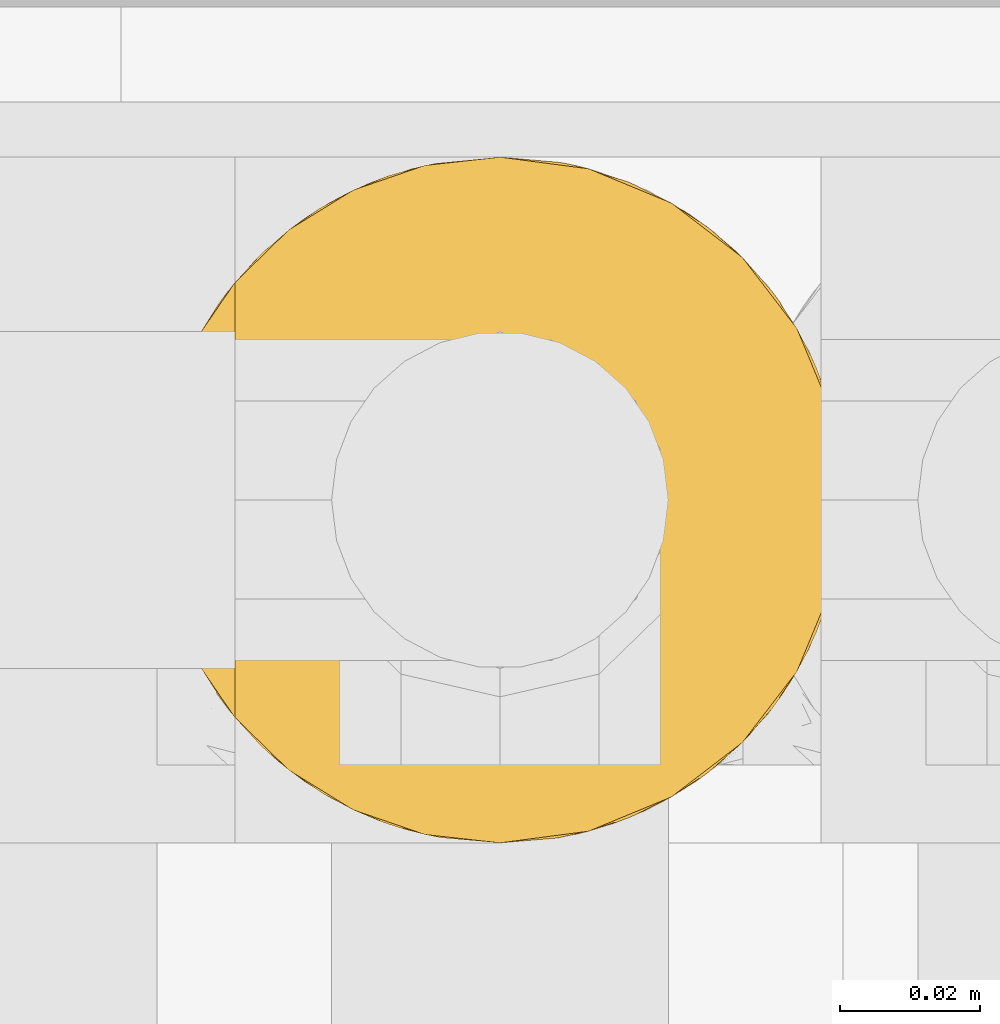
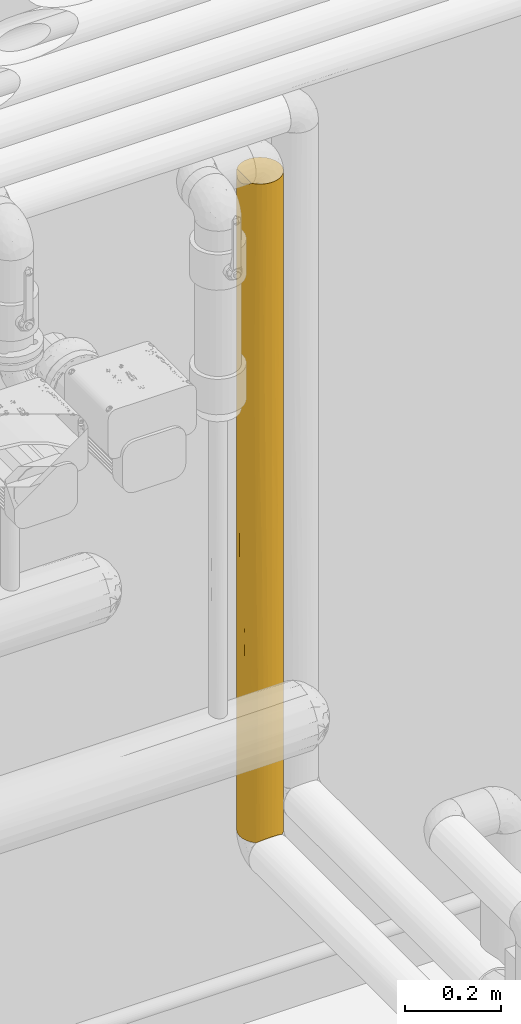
# One storey, part 10 of 94: 1 covering.
"""IFC2X3 building model written with IfcOpenShell, lengths in millimetres."""

from ifc_helpers import new_model, entity, si_unit, converted_unit, derived_unit, direction, frame, origin, place, context, subcontext, project, spatial, faceted_brep, material, element, save


model = new_model("IFC2X3")

# Units and contexts
model_context = context("Model", 3, precision=0.01, world=origin(), true_north=direction((6.123031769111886e-17, 1.0)))
body_context = subcontext(model_context, "Body", "Model", "MODEL_VIEW")
ifc_project = project(units=[si_unit("LENGTHUNIT", "METRE", prefix="MILLI"), si_unit("AREAUNIT", "SQUARE_METRE"), si_unit("VOLUMEUNIT", "CUBIC_METRE"), converted_unit("PLANEANGLEUNIT", "DEGREE", entity("IfcRatioMeasure", 0.017453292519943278), si_unit("PLANEANGLEUNIT", "RADIAN"), dimensions=[0, 0, 0, 0, 0, 0, 0]), si_unit("MASSUNIT", "GRAM", prefix="KILO"), derived_unit("MASSDENSITYUNIT", [(si_unit("MASSUNIT", "GRAM", prefix="KILO"), 1), (si_unit("LENGTHUNIT", "METRE"), -3)]), derived_unit("IONCONCENTRATIONUNIT", [(si_unit("MASSUNIT", "GRAM", prefix="KILO"), 1), (si_unit("LENGTHUNIT", "METRE"), -3)]), derived_unit("MOMENTOFINERTIAUNIT", [(si_unit("LENGTHUNIT", "METRE"), 4)]), si_unit("TIMEUNIT", "SECOND"), si_unit("FREQUENCYUNIT", "HERTZ"), si_unit("THERMODYNAMICTEMPERATUREUNIT", "DEGREE_CELSIUS"), derived_unit("THERMALTRANSMITTANCEUNIT", [(si_unit("MASSUNIT", "GRAM", prefix="KILO"), 1), (si_unit("THERMODYNAMICTEMPERATUREUNIT", "KELVIN"), -1), (si_unit("TIMEUNIT", "SECOND"), -3)]), derived_unit("THERMALCONDUCTANCEUNIT", [(si_unit("MASSUNIT", "GRAM", prefix="KILO"), 1), (si_unit("THERMODYNAMICTEMPERATUREUNIT", "KELVIN"), -1), (si_unit("TIMEUNIT", "SECOND"), -3), (si_unit("LENGTHUNIT", "METRE"), 1)]), derived_unit("VOLUMETRICFLOWRATEUNIT", [(si_unit("LENGTHUNIT", "METRE"), 3), (si_unit("TIMEUNIT", "SECOND"), -1)]), derived_unit("MASSFLOWRATEUNIT", [(si_unit("MASSUNIT", "GRAM", prefix="KILO"), 1), (si_unit("TIMEUNIT", "SECOND"), -1)]), derived_unit("ROTATIONALFREQUENCYUNIT", [(si_unit("TIMEUNIT", "SECOND"), -1)]), si_unit("ELECTRICCURRENTUNIT", "AMPERE"), si_unit("ELECTRICVOLTAGEUNIT", "VOLT"), si_unit("POWERUNIT", "WATT"), si_unit("FORCEUNIT", "NEWTON", prefix="KILO"), si_unit("ILLUMINANCEUNIT", "LUX"), si_unit("LUMINOUSFLUXUNIT", "LUMEN"), si_unit("LUMINOUSINTENSITYUNIT", "CANDELA"), derived_unit("USERDEFINED", [(si_unit("MASSUNIT", "GRAM", prefix="KILO"), -1), (si_unit("LENGTHUNIT", "METRE"), -2), (si_unit("TIMEUNIT", "SECOND"), 3), (si_unit("LUMINOUSFLUXUNIT", "LUMEN"), 1)]), derived_unit("USERDEFINED", [(si_unit("MASSUNIT", "GRAM", prefix="KILO"), 1), (si_unit("TIMEUNIT", "SECOND"), -3), (si_unit("LENGTHUNIT", "METRE"), 3), (si_unit("ELECTRICCURRENTUNIT", "AMPERE"), -2)]), derived_unit("SOUNDPOWERUNIT", [(si_unit("MASSUNIT", "GRAM", prefix="KILO"), 1), (si_unit("TIMEUNIT", "SECOND"), -3), (si_unit("LENGTHUNIT", "METRE"), 2)]), derived_unit("SOUNDPRESSUREUNIT", [(si_unit("MASSUNIT", "GRAM", prefix="KILO"), 1), (si_unit("LENGTHUNIT", "METRE"), -1), (si_unit("TIMEUNIT", "SECOND"), -2)]), derived_unit("LINEARVELOCITYUNIT", [(si_unit("LENGTHUNIT", "METRE"), 1), (si_unit("TIMEUNIT", "SECOND"), -1)]), si_unit("PRESSUREUNIT", "PASCAL"), derived_unit("USERDEFINED", [(si_unit("MASSUNIT", "GRAM", prefix="KILO"), 1), (si_unit("LENGTHUNIT", "METRE"), -2), (si_unit("TIMEUNIT", "SECOND"), -2)]), derived_unit("LINEARFORCEUNIT", [(si_unit("MASSUNIT", "GRAM", prefix="KILO"), 1), (si_unit("TIMEUNIT", "SECOND"), -2)]), derived_unit("PLANARFORCEUNIT", [(si_unit("MASSUNIT", "GRAM", prefix="KILO"), 1), (si_unit("LENGTHUNIT", "METRE"), -1), (si_unit("TIMEUNIT", "SECOND"), -2)]), derived_unit("SPECIFICHEATCAPACITYUNIT", [(si_unit("THERMODYNAMICTEMPERATUREUNIT", "KELVIN"), -1), (si_unit("LENGTHUNIT", "METRE"), 2), (si_unit("TIMEUNIT", "SECOND"), -2)]), derived_unit("HEATINGVALUEUNIT", [(si_unit("LENGTHUNIT", "METRE"), 2), (si_unit("TIMEUNIT", "SECOND"), -2)]), derived_unit("VAPORPERMEABILITYUNIT", [(si_unit("LENGTHUNIT", "METRE"), -1), (si_unit("TIMEUNIT", "SECOND"), 1)]), derived_unit("DYNAMICVISCOSITYUNIT", [(si_unit("MASSUNIT", "GRAM", prefix="KILO"), 1), (si_unit("TIMEUNIT", "SECOND"), -1), (si_unit("LENGTHUNIT", "METRE"), -1)]), derived_unit("THERMALEXPANSIONCOEFFICIENTUNIT", [(si_unit("THERMODYNAMICTEMPERATUREUNIT", "KELVIN"), -1)]), derived_unit("MODULUSOFELASTICITYUNIT", [(si_unit("MASSUNIT", "GRAM", prefix="KILO"), 1), (si_unit("LENGTHUNIT", "METRE"), -1), (si_unit("TIMEUNIT", "SECOND"), -2)]), derived_unit("ISOTHERMALMOISTURECAPACITYUNIT", [(si_unit("LENGTHUNIT", "METRE"), 3), (si_unit("MASSUNIT", "GRAM", prefix="KILO"), -1)]), derived_unit("MOISTUREDIFFUSIVITYUNIT", [(si_unit("TIMEUNIT", "SECOND"), -1), (si_unit("LENGTHUNIT", "METRE"), 2)])], contexts=[model_context])

# Site, building, storey
site_placement = place(None, origin())
site = spatial("IfcSite", under=ifc_project, at=site_placement, Name="Default", CompositionType="ELEMENT")
building_placement = place(site_placement, origin())
building = spatial("IfcBuilding", under=site, at=building_placement, CompositionType="ELEMENT")
storey_placement = place(building_placement, origin())
storey = spatial("IfcBuildingStorey", under=building, at=storey_placement, Name="Niveau 0", CompositionType="ELEMENT", Elevation=0.0)

# Covering
ifc_material = material(Name="Isolation - Laine minérale")
covering_placement = place(storey_placement, frame((-7061.46595441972, 9976.12035233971, 2213.5952722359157)))
element("IfcCovering", 1, at=covering_placement, inside=storey, material=ifc_material, Name="Isolation des canalisations:Laine minérale", ObjectType="Isolation des canalisations:Laine minérale", PredefinedType="INSULATION", context=body_context, shape_type="Brep", body=[
    faceted_brep([(2.793596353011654, 39.94049838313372, -1676.5952722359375), (1.5952722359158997, 50.72527223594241, -1676.595272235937), (3.26933639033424, 63.4410519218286, -1676.5952722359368), (8.17744414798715, 75.2902722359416, -1676.5952722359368), (15.985116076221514, 85.46542839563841, -1676.5952722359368), (26.160272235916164, 93.27310032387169, -1676.5952722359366), (38.00949255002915, 98.1812080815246, -1676.5952722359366), (50.72527223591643, 99.85527223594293, -1676.5952722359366), (63.4410519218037, 98.1812080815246, -1676.5952722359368), (75.29027223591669, 93.27310032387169, -1676.5952722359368), (85.46542839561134, 85.46542839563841, -1676.595272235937), (93.2731003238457, 75.2902722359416, -1676.5952722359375), (98.18120808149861, 63.4410519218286, -1676.5952722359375), (99.85527223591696, 50.72527223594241, -1676.5952722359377), (98.65694811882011, 39.94049838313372, -1676.595272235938), (95.12737949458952, 29.69648789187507, -1676.595272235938), (89.437999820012, 20.474956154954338, -1676.5952722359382), (81.86619226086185, 12.72527223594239, -1676.5952722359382), (19.584352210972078, 12.72527223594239, -1676.595272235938), (12.012544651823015, 20.474956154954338, -1676.5952722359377), (6.323164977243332, 29.69648789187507, -1676.5952722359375), (50.72527223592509, 99.85527223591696, -1.5952722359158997), (39.940498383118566, 98.65694811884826, -1.5952722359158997), (29.696487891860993, 95.12737949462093, -1.5952722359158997), (20.474956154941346, 89.43799982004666, -1.5952722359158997), (12.725272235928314, 81.86619226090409, -1.5952722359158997), (12.725272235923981, 19.584352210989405, -1.5952722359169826), (20.474956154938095, 12.012544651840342, -1.5952722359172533), (29.69648789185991, 6.323164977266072, -1.5952722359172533), (39.9404983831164, 2.79359635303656, -1.595272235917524), (50.72527223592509, 1.5952722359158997, -1.595272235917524), (63.44105192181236, 3.26933639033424, -1.595272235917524), (75.29027223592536, 8.17744414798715, -1.595272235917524), (85.46542839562, 15.98511607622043, -1.595272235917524), (93.27310032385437, 26.160272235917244, -1.5952722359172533), (98.18120808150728, 38.00949255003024, -1.5952722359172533), (99.85527223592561, 50.72527223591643, -1.5952722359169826), (98.18120808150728, 63.44105192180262, -1.595272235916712), (93.27310032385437, 75.29027223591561, -1.5952722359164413), (85.46542839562, 85.46542839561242, -1.5952722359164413), (75.29027223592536, 93.2731003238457, -1.5952722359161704), (63.44105192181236, 98.18120808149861, -1.5952722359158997), (34.72089524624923, 97.1754263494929, -368.15837131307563), (3.2339838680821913, 63.30837317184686, -270.00445683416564), (6.13911256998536, 71.36095168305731, -454.7501251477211), (2.785860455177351, 61.47560702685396, -551.6772297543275), (24.928396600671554, 92.53768794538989, -284.88923525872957), (38.099470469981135, 98.20522621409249, -1372.0146538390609), (31.9240352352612, 96.11547368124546, -1134.9457027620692), (41.37880809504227, 98.95804644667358, -1083.8385993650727), (1.5952722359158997, 50.72527223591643, -12.725272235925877), (2.3170998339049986, 59.1160853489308, -12.00344463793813), (16.390749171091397, 85.86637958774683, -368.15699385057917), (20.816823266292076, 89.7027218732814, -1307.3533304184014), (22.688335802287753, 91.06987652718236, -957.4763395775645), (4.461372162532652, 67.26033951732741, -9.85917230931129), (7.965081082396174, 74.91872078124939, -6.355463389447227), (11.747822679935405, 80.63372131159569, -1347.6038904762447), (1.5952722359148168, 50.725272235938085, -1431.851941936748), (4.308572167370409, 66.82641675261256, -828.725809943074), (15.511837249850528, 84.98561222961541, -998.7093926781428), (10.509195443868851, 78.94625853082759, -840.473239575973), (17.040724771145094, 86.48989389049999, -726.6015125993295), (10.291813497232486, 78.63391452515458, -261.2489733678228), (11.040847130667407, 79.68909974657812, -544.1883839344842), (34.71378494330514, 97.17297588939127, -783.356303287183), (50.72527223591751, 99.85527223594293, -1431.852133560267), (50.72527223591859, 99.85527223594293, -1187.1085621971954), (2.276002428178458, 58.87543512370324, -1211.7752541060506), (1.5952722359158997, 50.72527223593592, -1260.6329294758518), (1.5952722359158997, 50.725272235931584, -991.698593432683), (10.350772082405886, 78.71914008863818, -1098.733467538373), (29.01918898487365, 94.8002407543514, -1406.0384553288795), (24.928396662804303, 92.53768798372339, -609.8184863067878), (50.72527223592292, 99.85527223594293, -491.0819822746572), (50.72527223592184, 99.85527223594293, -697.6221169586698), (50.725272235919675, 99.85527223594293, -942.3654998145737), (50.725272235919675, 99.85527223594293, -980.5686923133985), (50.725272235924, 99.85527223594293, -246.33865509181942), (5.335070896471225, 69.52650949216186, -1220.1978590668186), (1.5952722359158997, 50.72527223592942, -844.6705867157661), (1.5952722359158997, 50.72527223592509, -502.21193283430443), (80.6337212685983, 89.70272182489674, -335.08870809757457), (89.70272186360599, 80.63372121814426, -402.93155429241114), (69.52650928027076, 96.11547366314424, -1194.1943941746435), (59.29819401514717, 99.10152583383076, -1382.4961225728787), (60.36283817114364, 98.9007247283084, -1064.7369520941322), (69.52650931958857, 96.11547364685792, -483.9961490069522), (61.892413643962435, 98.56930898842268, -297.92007476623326), (60.35483229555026, 98.90232562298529, -594.3519443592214), (98.67546867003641, 61.42740108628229, -433.3077600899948), (99.85527223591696, 50.725272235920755, -246.33762624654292), (99.85527223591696, 50.72527223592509, -491.08343659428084), (77.67087345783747, 91.80679453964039, -1093.9141605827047), (68.79562203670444, 96.41136813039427, -839.095271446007), (80.6337212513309, 89.7027218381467, -839.0952722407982), (98.45476754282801, 62.3722537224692, -1377.6186904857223), (96.11547367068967, 69.52650926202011, -1173.5227609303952), (98.92661523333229, 60.232502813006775, -1083.83859948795), (96.11547368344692, 69.5265092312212, -636.2887725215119), (95.3129584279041, 71.35765309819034, -309.72093685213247), (90.8497424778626, 79.0763531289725, -904.9057658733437), (99.14433919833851, 59.052988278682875, -746.8635683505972), (80.63372124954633, 89.70272183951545, -1348.7330491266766), (85.0073637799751, 85.91753131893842, -1093.9141608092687), (89.70272184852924, 80.6337212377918, -1319.094947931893), (97.0000581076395, 67.22985016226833, -904.9057669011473), (95.50830687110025, 70.93014068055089, -1443.5807672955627), (99.85527223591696, 50.725272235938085, -1431.852560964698), (99.85527223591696, 50.725272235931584, -980.5688591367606), (77.12957019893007, 92.1567813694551, -594.5757683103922), (84.50605088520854, 86.39901459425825, -587.0919906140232), (99.85527223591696, 50.72527223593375, -1187.109849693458), (99.85527223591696, 50.72527223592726, -697.6208227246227), (89.70272183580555, 20.816823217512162, -370.8372123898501), (91.06987646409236, 22.688335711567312, -720.7142025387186), (96.11547365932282, 31.924035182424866, -543.2448414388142), (85.86637951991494, 16.390749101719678, -1310.0335492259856), (92.53768790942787, 24.928396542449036, -1068.3720560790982), (86.4898937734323, 17.040724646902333, -951.5890272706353), (78.94625832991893, 10.509195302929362, -837.7173013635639), (71.36095158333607, 6.139112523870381, -1223.440416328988), (79.6890996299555, 11.0408470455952, -1134.002157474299), (50.725272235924, 1.5952722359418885, -246.33508261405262), (58.87543472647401, 2.2760023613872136, -466.4152812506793), (66.82641641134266, 4.308572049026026, -849.4647271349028), (94.8002407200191, 29.01918891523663, -272.1520893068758), (98.20522620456, 38.09947043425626, -306.1758904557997), (98.95804644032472, 41.37880806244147, -594.3519448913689), (61.475606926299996, 2.785860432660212, -1126.5133108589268), (97.17297587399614, 34.71378489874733, -894.8342420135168), (78.63391446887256, 10.291813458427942, -1416.9415693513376), (92.53768791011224, 24.92839654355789, -1393.301307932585), (74.9187207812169, 7.965081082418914, -1671.8350810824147), (63.30837313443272, 3.233983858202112, -1408.186085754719), (59.116085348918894, 2.3170998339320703, -1666.1870998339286), (67.26033951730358, 4.461372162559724, -1668.331372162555), (97.17542632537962, 34.7208951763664, -1310.0321718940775), (50.72527223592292, 1.5952722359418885, -344.0409532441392), (50.72527223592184, 1.5952722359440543, -686.4944694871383), (69.5265092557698, 5.335070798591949, -457.99267907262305), (50.72527223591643, 1.5952722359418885, -1665.4652722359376), (80.63372123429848, 11.747822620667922, -330.5866513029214), (78.7191397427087, 10.35077184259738, -579.4570721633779), (84.9856120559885, 15.511837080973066, -679.481144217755), (50.72527223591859, 1.5952722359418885, -1175.979870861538), (50.72527223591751, 1.5952722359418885, -1420.721974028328), (34.72089516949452, 4.275118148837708, -492.2565077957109), (16.39074909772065, 15.584164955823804, -446.8343185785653), (10.507991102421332, 22.506002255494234, -837.2822517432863), (19.03712239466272, 13.18039163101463, -938.0452469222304), (29.985384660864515, 6.187490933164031, -985.8540027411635), (22.75217512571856, 10.33637848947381, -1297.6686080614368), (12.280108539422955, 20.13562875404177, -1252.5493471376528), (33.26512912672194, 4.802507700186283, -1319.7221007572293), (26.531823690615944, 7.965081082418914, -1671.8350810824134), (4.461372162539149, 34.19020495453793, -9.859172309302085), (6.138809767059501, 30.09024704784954, -453.2595199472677), (7.965081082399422, 26.531823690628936, -6.3554633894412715), (42.089214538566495, 2.3602496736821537, -1333.1702413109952), (40.21480976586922, 2.732699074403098, -1069.9532408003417), (10.565119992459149, 22.424758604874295, -290.04155443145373), (25.340039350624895, 8.661667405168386, -669.4969191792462), (25.33720973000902, 8.663375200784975, -319.78591092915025), (2.729958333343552, 40.227332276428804, -339.9521168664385), (2.8599009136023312, 39.64993349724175, -673.4360992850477), (4.275118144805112, 34.720895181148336, -1175.130721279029), (10.382847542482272, 22.685199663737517, -563.6200732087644), (2.317099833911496, 42.33445912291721, -12.003444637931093), (5.381395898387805, 31.81258393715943, -874.3952867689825), (34.19020495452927, 4.461372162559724, -1668.331372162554), (37.10994177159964, 3.5195556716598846, -784.0671800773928), (42.33445912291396, 2.3170998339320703, -1666.1870998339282)], [[[0, 1, 2, 3, 4, 5, 6, 7, 8, 9, 10, 11, 12, 13, 14, 15, 16, 17, 18, 19, 20]], [[21, 22, 23, 24, 25, 26, 27, 28, 29, 30, 31, 32, 33, 34, 35, 36, 37, 38, 39, 40, 41]], [[23, 22, 42]], [[43, 44, 45]], [[23, 46, 24]], [[47, 48, 49]], [[50, 51, 43]], [[52, 25, 24]], [[53, 54, 48]], [[44, 55, 56]], [[53, 4, 57]], [[24, 46, 52]], [[2, 1, 58]], [[44, 59, 45]], [[60, 61, 62]], [[63, 56, 25]], [[64, 63, 52]], [[61, 59, 44]], [[48, 65, 49]], [[66, 47, 67]], [[68, 58, 69, 70]], [[4, 53, 5]], [[71, 59, 61]], [[53, 48, 72]], [[73, 46, 42]], [[65, 74, 75, 76, 77]], [[61, 44, 64]], [[43, 51, 55]], [[22, 21, 78, 74]], [[79, 3, 2]], [[52, 73, 62]], [[47, 72, 48]], [[22, 74, 42]], [[65, 77, 49]], [[4, 3, 57]], [[54, 73, 65]], [[67, 49, 77]], [[66, 6, 47]], [[54, 65, 48]], [[73, 42, 65]], [[74, 65, 42]], [[6, 66, 7]], [[47, 49, 67]], [[58, 68, 2]], [[72, 6, 5]], [[42, 46, 23]], [[52, 46, 73]], [[3, 79, 57]], [[60, 71, 61]], [[6, 72, 47]], [[53, 72, 5]], [[68, 59, 79]], [[45, 70, 80, 81]], [[60, 53, 57]], [[62, 73, 54]], [[60, 62, 54]], [[62, 61, 64]], [[53, 60, 54]], [[71, 60, 57]], [[57, 79, 71]], [[59, 71, 79]], [[70, 45, 59]], [[81, 50, 43]], [[44, 43, 55]], [[81, 43, 45]], [[63, 44, 56]], [[62, 64, 52]], [[52, 63, 25]], [[44, 63, 64]], [[59, 68, 70]], [[2, 68, 79]], [[82, 39, 83]], [[84, 8, 85]], [[67, 86, 85]], [[8, 84, 9]], [[40, 87, 88]], [[87, 89, 88]], [[90, 36, 91, 92]], [[75, 74, 89, 76]], [[93, 94, 95]], [[96, 97, 98]], [[90, 99, 100]], [[101, 83, 99]], [[92, 102, 90]], [[103, 104, 105]], [[102, 98, 106]], [[107, 97, 96]], [[103, 105, 10]], [[90, 100, 37]], [[38, 83, 39]], [[105, 97, 107]], [[105, 101, 97]], [[108, 12, 96]], [[11, 10, 105]], [[85, 7, 66, 67]], [[41, 40, 88]], [[39, 82, 40]], [[98, 102, 109]], [[110, 82, 111]], [[10, 9, 103]], [[101, 99, 106]], [[87, 94, 89]], [[78, 21, 88, 74]], [[94, 86, 89]], [[94, 87, 110]], [[89, 86, 76]], [[108, 96, 112]], [[109, 112, 98]], [[106, 98, 97]], [[90, 102, 99]], [[102, 92, 113, 109]], [[88, 21, 41]], [[12, 108, 13]], [[104, 101, 105]], [[101, 95, 111]], [[86, 67, 77, 76]], [[94, 84, 86]], [[84, 85, 86]], [[7, 85, 8]], [[111, 82, 83]], [[87, 40, 82]], [[9, 84, 103]], [[104, 93, 95]], [[96, 98, 112]], [[107, 12, 11]], [[74, 88, 89]], [[99, 83, 100]], [[36, 90, 37]], [[83, 38, 100]], [[37, 100, 38]], [[101, 106, 97]], [[102, 106, 99]], [[12, 107, 96]], [[105, 107, 11]], [[93, 104, 103]], [[101, 104, 95]], [[103, 84, 93]], [[94, 93, 84]], [[101, 111, 83]], [[110, 111, 95]], [[94, 110, 95]], [[82, 110, 87]], [[114, 115, 116]], [[117, 118, 119]], [[120, 121, 122]], [[31, 123, 124]], [[120, 125, 121]], [[116, 126, 114]], [[114, 34, 33]], [[127, 116, 128]], [[121, 125, 129]], [[116, 130, 128]], [[122, 131, 117]], [[130, 112, 109, 113]], [[132, 16, 15]], [[131, 133, 17]], [[16, 132, 117]], [[14, 13, 108, 112]], [[134, 135, 136]], [[133, 121, 136]], [[118, 132, 137]], [[134, 121, 129]], [[124, 123, 138, 139]], [[31, 140, 32]], [[15, 14, 137]], [[141, 135, 134]], [[17, 16, 117]], [[114, 33, 142]], [[143, 125, 120]], [[119, 144, 120]], [[91, 35, 127]], [[127, 126, 116]], [[14, 112, 137]], [[130, 113, 128]], [[33, 32, 142]], [[115, 118, 130]], [[91, 127, 92]], [[113, 92, 128]], [[115, 130, 116]], [[118, 137, 130]], [[112, 130, 137]], [[35, 91, 36]], [[31, 30, 123]], [[127, 128, 92]], [[126, 35, 34]], [[137, 132, 15]], [[117, 132, 118]], [[32, 140, 142]], [[144, 143, 120]], [[35, 126, 127]], [[114, 126, 34]], [[124, 125, 140]], [[129, 139, 145]], [[144, 114, 142]], [[119, 118, 115]], [[144, 119, 115]], [[119, 120, 122]], [[114, 144, 115]], [[143, 144, 142]], [[142, 140, 143]], [[125, 143, 140]], [[139, 129, 125]], [[134, 145, 146, 141]], [[121, 134, 136]], [[145, 134, 129]], [[131, 121, 133]], [[119, 122, 117]], [[117, 131, 17]], [[121, 131, 122]], [[125, 124, 139]], [[31, 124, 140]], [[29, 147, 138]], [[148, 149, 150]], [[148, 27, 26]], [[151, 150, 152]], [[150, 153, 152]], [[154, 152, 155]], [[151, 152, 154]], [[28, 147, 29]], [[29, 138, 123, 30]], [[156, 157, 158]], [[159, 160, 154]], [[153, 18, 152]], [[154, 160, 151]], [[159, 145, 160]], [[148, 26, 161]], [[162, 147, 163]], [[157, 161, 158]], [[164, 81, 165]], [[0, 166, 69]], [[162, 150, 151]], [[155, 152, 18]], [[167, 148, 161]], [[164, 156, 168]], [[153, 166, 20]], [[166, 0, 20]], [[20, 19, 153]], [[0, 69, 58, 1]], [[169, 157, 165]], [[164, 165, 157]], [[165, 81, 80]], [[163, 27, 148]], [[170, 154, 155]], [[171, 151, 160]], [[50, 81, 164]], [[80, 166, 165]], [[169, 165, 166]], [[171, 162, 151]], [[153, 150, 149]], [[153, 149, 169]], [[153, 19, 18]], [[163, 147, 28]], [[148, 150, 162]], [[27, 163, 28]], [[148, 162, 163]], [[156, 164, 157]], [[164, 168, 50]], [[172, 141, 146]], [[172, 146, 159]], [[145, 139, 160]], [[171, 139, 147]], [[139, 171, 160]], [[162, 171, 147]], [[159, 170, 172]], [[159, 154, 170]], [[145, 159, 146]], [[166, 80, 70, 69]], [[147, 139, 138]], [[158, 161, 26]], [[167, 161, 157]], [[169, 167, 157]], [[148, 167, 149]], [[153, 169, 166]], [[169, 149, 167]], [[136, 135, 141, 172, 170, 155, 18, 17, 133]], [[50, 168, 156, 158, 26, 25, 56, 55, 51]]]),
])

save(model, "model.ifc")
